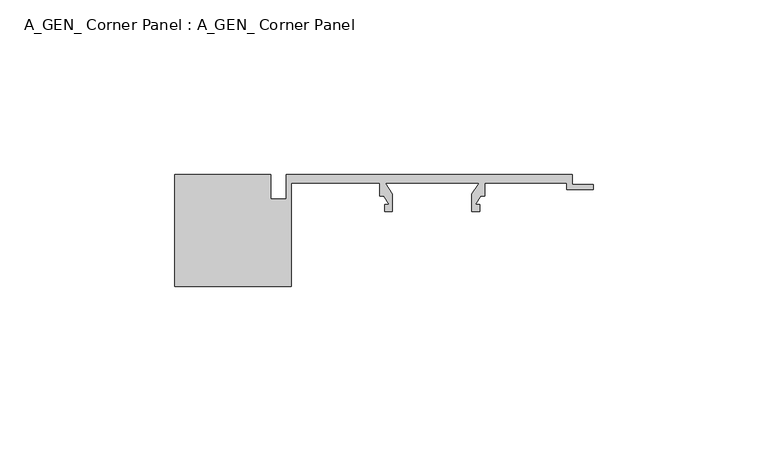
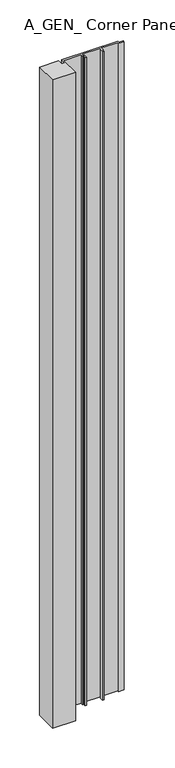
"""IFC4 building model written with IfcOpenShell, lengths in millimetres: proxy geometry, A_GEN_ Corner Panel : A_GEN_ Corner Panel."""

from ifc_helpers import new_model, si_unit, origin, origin_with_axes, place, context, project, spatial, polyline, outline, extrude, source, transform, mapped, element, save


def a_gen_corner_panel_a_gen_corner_panel_3c76c818(model_context):
    return source(origin(), model_context, "Body", "SweptSolid", [
        extrude(outline(polyline([(27.44646, 0.0), (27.44646, -7.0005407), (31.8427435, -7.0005407), (31.8427435, 0.0), (113.5529432, 0.0), (113.5529432, -2.825696), (119.5529432, -2.825696), (119.5529432, -4.175696), (112.0345881, -4.175696), (112.0345881, -2.4), (88.5307808, -2.4), (88.5307808, -6.1021884), (87.4158073, -6.1021884), (85.8272415, -8.4994005), (87.0891754, -8.4994005), (87.0891754, -10.4818695), (84.8866494, -10.4818695), (84.9199326, -5.5238337), (86.9900104, -2.4), (60.075791, -2.4), (62.1458688, -5.5238337), (62.1791521, -10.4818695), (59.976626, -10.4818695), (59.976626, -8.4994005), (61.2385599, -8.4994005), (59.6499941, -6.1021884), (58.5350207, -6.1021884), (58.5350207, -2.4), (33.2427435, -2.4), (33.2427435, -31.9534606), (0.0, -31.9534606), (0.0, 0.0), (27.44646, 0.0)])), origin_with_axes(), (0.0, 0.0, 1.0), 992.5516144),
    ])


if __name__ == "__main__":
    model = new_model("IFC4")
    model_context = context("Model", 3, world=origin())
    ifc_project = project(units=[si_unit("LENGTHUNIT", "METRE", prefix="MILLI")], contexts=[model_context])
    site = spatial("IfcSite", under=ifc_project)
    building = spatial("IfcBuilding", under=site)
    placement = place(None, origin())
    a_gen_corner_panel_a_gen_corner_panel_shape = a_gen_corner_panel_a_gen_corner_panel_3c76c818(model_context)
    element("IfcBuildingElementProxy", 1, Name="A_GEN_ Corner Panel : A_GEN_ Corner Panel", ObjectType="A_GEN_ Corner Panel : A_GEN_ Corner Panel", at=placement, inside=building, context=model_context, shape_type="MappedRepresentation", body=[
        mapped(a_gen_corner_panel_a_gen_corner_panel_shape, transform((0.0, 0.0, 0.0), x_axis=(1.0, 0.0, 0.0), y_axis=(0.0, 1.0, 0.0), z_axis=(0.0, 0.0, 1.0))),
    ])
    save(model, "model.ifc")
